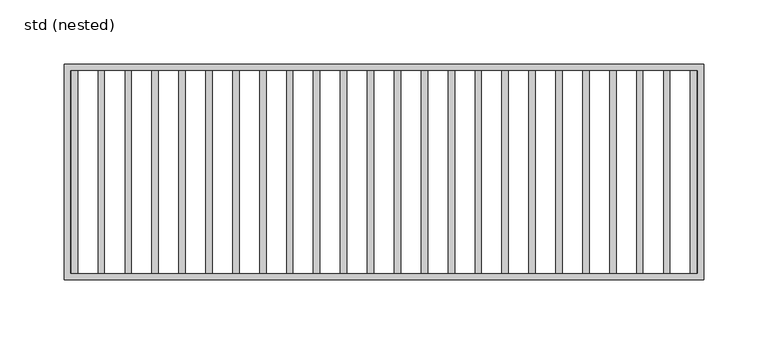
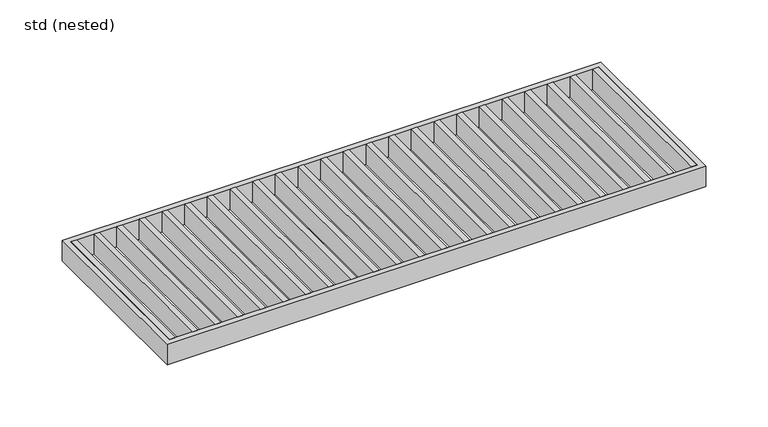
"""IFC4 building model written with IfcOpenShell, lengths in millimetres: sanitary terminal geometry, ZZZ_do not use_PF_ST_UN_grating for box channel_ACO : std (nested)."""

from ifc_helpers import new_model, si_unit, frame, origin, place, context, project, spatial, polyline, outline, extrude, source, transform, mapped, element, save


def std_nested_124cadb5(model_context):
    return source(origin(), model_context, "Body", "SweptSolid", [
        extrude(outline(polyline([(-244.0, 79.0), (-239.0, 79.0), (-239.0, -79.0), (-244.0, -79.0), (-244.0, 79.0)])), frame((0.0, 0.0, -20.0), z_axis=(0.0, 0.0, 1.0), x_axis=(1.0, 0.0, 0.0)), (0.0, 0.0, 1.0), 20.0),
        extrude(outline(polyline([(-223.0, 79.0), (-218.0, 79.0), (-218.0, -79.0), (-223.0, -79.0), (-223.0, 79.0)])), frame((0.0, 0.0, -20.0), z_axis=(0.0, 0.0, 1.0), x_axis=(1.0, 0.0, 0.0)), (0.0, 0.0, 1.0), 20.0),
        extrude(outline(polyline([(-202.0, 79.0), (-197.0, 79.0), (-197.0, -79.0), (-202.0, -79.0), (-202.0, 79.0)])), frame((0.0, 0.0, -20.0), z_axis=(0.0, 0.0, 1.0), x_axis=(1.0, 0.0, 0.0)), (0.0, 0.0, 1.0), 20.0),
        extrude(outline(polyline([(-181.0, 79.0), (-176.0, 79.0), (-176.0, -79.0), (-181.0, -79.0), (-181.0, 79.0)])), frame((0.0, 0.0, -20.0), z_axis=(0.0, 0.0, 1.0), x_axis=(1.0, 0.0, 0.0)), (0.0, 0.0, 1.0), 20.0),
        extrude(outline(polyline([(-160.0, 79.0), (-155.0, 79.0), (-155.0, -79.0), (-160.0, -79.0), (-160.0, 79.0)])), frame((0.0, 0.0, -20.0), z_axis=(0.0, 0.0, 1.0), x_axis=(1.0, 0.0, 0.0)), (0.0, 0.0, 1.0), 20.0),
        extrude(outline(polyline([(-139.0, 79.0), (-134.0, 79.0), (-134.0, -79.0), (-139.0, -79.0), (-139.0, 79.0)])), frame((0.0, 0.0, -20.0), z_axis=(0.0, 0.0, 1.0), x_axis=(1.0, 0.0, 0.0)), (0.0, 0.0, 1.0), 20.0),
        extrude(outline(polyline([(-118.0, 79.0), (-113.0, 79.0), (-113.0, -79.0), (-118.0, -79.0), (-118.0, 79.0)])), frame((0.0, 0.0, -20.0), z_axis=(0.0, 0.0, 1.0), x_axis=(1.0, 0.0, 0.0)), (0.0, 0.0, 1.0), 20.0),
        extrude(outline(polyline([(-97.0, 79.0), (-92.0, 79.0), (-92.0, -79.0), (-97.0, -79.0), (-97.0, 79.0)])), frame((0.0, 0.0, -20.0), z_axis=(0.0, 0.0, 1.0), x_axis=(1.0, 0.0, 0.0)), (0.0, 0.0, 1.0), 20.0),
        extrude(outline(polyline([(-76.0, 79.0), (-71.0, 79.0), (-71.0, -79.0), (-76.0, -79.0), (-76.0, 79.0)])), frame((0.0, 0.0, -20.0), z_axis=(0.0, 0.0, 1.0), x_axis=(1.0, 0.0, 0.0)), (0.0, 0.0, 1.0), 20.0),
        extrude(outline(polyline([(-55.0, 79.0), (-50.0, 79.0), (-50.0, -79.0), (-55.0, -79.0), (-55.0, 79.0)])), frame((0.0, 0.0, -20.0), z_axis=(0.0, 0.0, 1.0), x_axis=(1.0, 0.0, 0.0)), (0.0, 0.0, 1.0), 20.0),
        extrude(outline(polyline([(-34.0, 79.0), (-29.0, 79.0), (-29.0, -79.0), (-34.0, -79.0), (-34.0, 79.0)])), frame((0.0, 0.0, -20.0), z_axis=(0.0, 0.0, 1.0), x_axis=(1.0, 0.0, 0.0)), (0.0, 0.0, 1.0), 20.0),
        extrude(outline(polyline([(244.0, 79.0), (244.0, -79.0), (239.0, -79.0), (239.0, 79.0), (244.0, 79.0)])), frame((0.0, 0.0, -20.0), z_axis=(0.0, 0.0, 1.0), x_axis=(1.0, 0.0, 0.0)), (0.0, 0.0, 1.0), 20.0),
        extrude(outline(polyline([(223.0, 79.0), (223.0, -79.0), (218.0, -79.0), (218.0, 79.0), (223.0, 79.0)])), frame((0.0, 0.0, -20.0), z_axis=(0.0, 0.0, 1.0), x_axis=(1.0, 0.0, 0.0)), (0.0, 0.0, 1.0), 20.0),
        extrude(outline(polyline([(202.0, 79.0), (202.0, -79.0), (197.0, -79.0), (197.0, 79.0), (202.0, 79.0)])), frame((0.0, 0.0, -20.0), z_axis=(0.0, 0.0, 1.0), x_axis=(1.0, 0.0, 0.0)), (0.0, 0.0, 1.0), 20.0),
        extrude(outline(polyline([(181.0, 79.0), (181.0, -79.0), (176.0, -79.0), (176.0, 79.0), (181.0, 79.0)])), frame((0.0, 0.0, -20.0), z_axis=(0.0, 0.0, 1.0), x_axis=(1.0, 0.0, 0.0)), (0.0, 0.0, 1.0), 20.0),
        extrude(outline(polyline([(160.0, 79.0), (160.0, -79.0), (155.0, -79.0), (155.0, 79.0), (160.0, 79.0)])), frame((0.0, 0.0, -20.0), z_axis=(0.0, 0.0, 1.0), x_axis=(1.0, 0.0, 0.0)), (0.0, 0.0, 1.0), 20.0),
        extrude(outline(polyline([(139.0, 79.0), (139.0, -79.0), (134.0, -79.0), (134.0, 79.0), (139.0, 79.0)])), frame((0.0, 0.0, -20.0), z_axis=(0.0, 0.0, 1.0), x_axis=(1.0, 0.0, 0.0)), (0.0, 0.0, 1.0), 20.0),
        extrude(outline(polyline([(118.0, 79.0), (118.0, -79.0), (113.0, -79.0), (113.0, 79.0), (118.0, 79.0)])), frame((0.0, 0.0, -20.0), z_axis=(0.0, 0.0, 1.0), x_axis=(1.0, 0.0, 0.0)), (0.0, 0.0, 1.0), 20.0),
        extrude(outline(polyline([(97.0, 79.0), (97.0, -79.0), (92.0, -79.0), (92.0, 79.0), (97.0, 79.0)])), frame((0.0, 0.0, -20.0), z_axis=(0.0, 0.0, 1.0), x_axis=(1.0, 0.0, 0.0)), (0.0, 0.0, 1.0), 20.0),
        extrude(outline(polyline([(76.0, 79.0), (76.0, -79.0), (71.0, -79.0), (71.0, 79.0), (76.0, 79.0)])), frame((0.0, 0.0, -20.0), z_axis=(0.0, 0.0, 1.0), x_axis=(1.0, 0.0, 0.0)), (0.0, 0.0, 1.0), 20.0),
        extrude(outline(polyline([(55.0, 79.0), (55.0, -79.0), (50.0, -79.0), (50.0, 79.0), (55.0, 79.0)])), frame((0.0, 0.0, -20.0), z_axis=(0.0, 0.0, 1.0), x_axis=(1.0, 0.0, 0.0)), (0.0, 0.0, 1.0), 20.0),
        extrude(outline(polyline([(34.0, 79.0), (34.0, -79.0), (29.0, -79.0), (29.0, 79.0), (34.0, 79.0)])), frame((0.0, 0.0, -20.0), z_axis=(0.0, 0.0, 1.0), x_axis=(1.0, 0.0, 0.0)), (0.0, 0.0, 1.0), 20.0),
        extrude(outline(polyline([(-13.0, 79.0), (-8.0, 79.0), (-8.0, -79.0), (-13.0, -79.0), (-13.0, 79.0)])), frame((0.0, 0.0, -20.0), z_axis=(0.0, 0.0, 1.0), x_axis=(1.0, 0.0, 0.0)), (0.0, 0.0, 1.0), 20.0),
        extrude(outline(polyline([(13.0, 79.0), (13.0, -79.0), (8.0, -79.0), (8.0, 79.0), (13.0, 79.0)])), frame((0.0, 0.0, -20.0), z_axis=(0.0, 0.0, 1.0), x_axis=(1.0, 0.0, 0.0)), (0.0, 0.0, 1.0), 20.0),
        extrude(outline(polyline([(249.5, 84.0), (249.5, -84.0), (-249.5, -84.0), (-249.5, 84.0), (249.5, 84.0)]), holes=[polyline([(244.5, 79.0), (-244.5, 79.0), (-244.5, -79.0), (244.5, -79.0), (244.5, 79.0)])]), frame((0.0, 0.0, -20.0), z_axis=(0.0, 0.0, 1.0), x_axis=(1.0, 0.0, 0.0)), (0.0, 0.0, 1.0), 20.0),
    ])


if __name__ == "__main__":
    model = new_model("IFC4")
    model_context = context("Model", 3, world=origin())
    ifc_project = project(units=[si_unit("LENGTHUNIT", "METRE", prefix="MILLI")], contexts=[model_context])
    site = spatial("IfcSite", under=ifc_project)
    building = spatial("IfcBuilding", under=site)
    placement = place(None, origin())
    std_nested_shape = std_nested_124cadb5(model_context)
    element("IfcSanitaryTerminal", 1, ObjectType="ZZZ_do not use_PF_ST_UN_grating for box channel_ACO : std (nested)", at=placement, inside=building, context=model_context, shape_type="MappedRepresentation", body=[
        mapped(std_nested_shape, transform((0.0, 0.0, 0.0), x_axis=(1.0, 0.0, 0.0), y_axis=(0.0, 1.0, 0.0), z_axis=(0.0, 0.0, 1.0))),
    ])
    save(model, "model.ifc")
